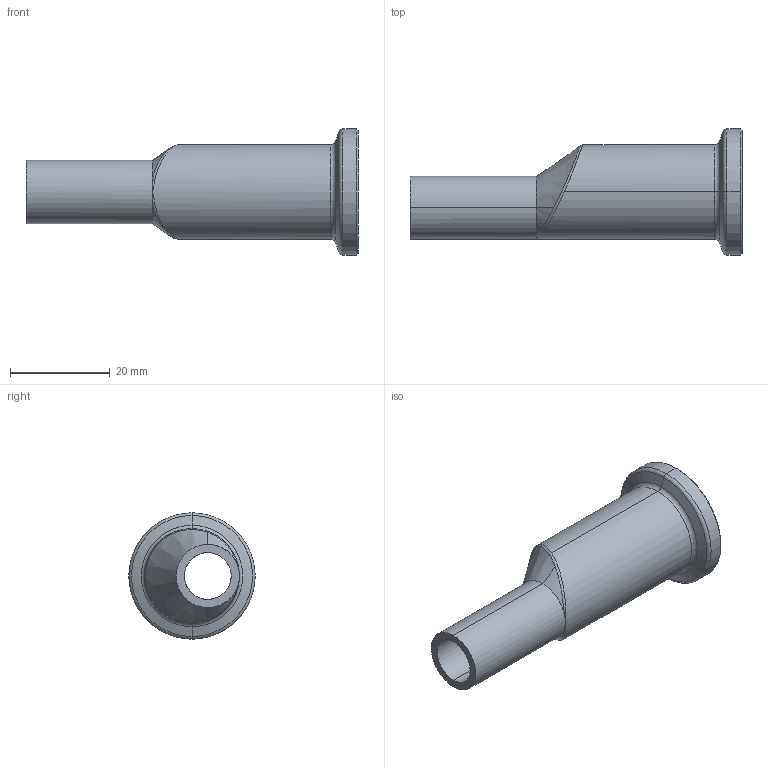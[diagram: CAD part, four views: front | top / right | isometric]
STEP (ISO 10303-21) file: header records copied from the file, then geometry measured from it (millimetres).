
FILE_DESCRIPTION (( 'STEP AP214' ), '1' );
FILE_NAME ('TE32SCW6L.75x.5-...STEP', '2016-06-01T10:07:21', ( 'eran' ), ( '' ), 'SwSTEP 2.0', 'SolidWorks 2016', '' );
FILE_SCHEMA (( 'AUTOMOTIVE_DESIGN' ));
Length unit declared in the file: millimetre
Products named in the file (1): TE32SCW6L.75x.5-..
Bounding box: 66.67 x 25.4 x 25.4 mm (x, y, z)
Volume: 8758.7 mm3; surface area: 6443.1 mm2
Topology: 1 solids, 1 shells, 40 faces, 86 edges, 49 vertices
Faces by surface type: cone 14, cylinder 12, torus 9, plane 3, bspline 2
Entity records: 1669 total; most frequent: CARTESIAN_POINT 765, DIRECTION 198, ORIENTED_EDGE 172, AXIS2_PLACEMENT_3D 87, EDGE_CURVE 86, VERTEX_POINT 49, CIRCLE 48, EDGE_LOOP 43
